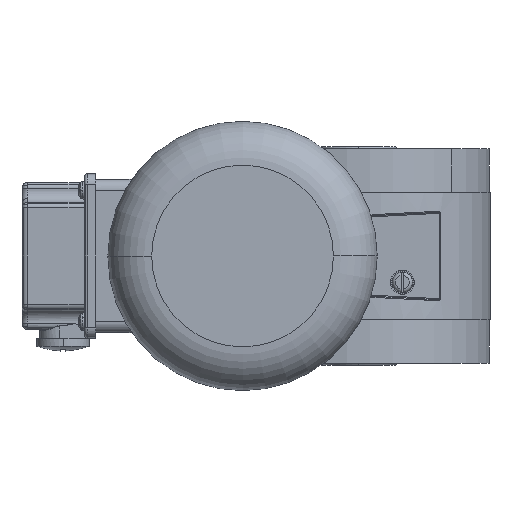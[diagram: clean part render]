
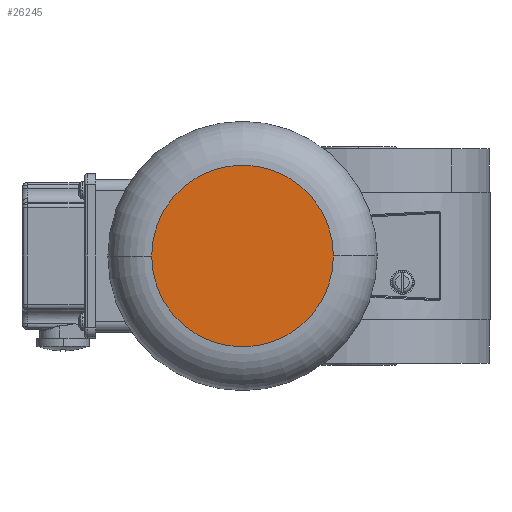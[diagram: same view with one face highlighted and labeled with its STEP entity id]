
A CAD part, left-side view. The second image highlights one B-rep face of the part: STEP entity #26245.
In plain terms, the highlighted planar face has unit normal (-1, 0, 0).
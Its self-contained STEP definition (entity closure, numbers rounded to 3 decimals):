
#167 = ORIENTED_EDGE ( 'NONE', *, *, #23098, .T. ) ;
#1545 = CARTESIAN_POINT ( 'NONE',  ( 0., 0., -41.5 ) ) ;
#3726 = EDGE_LOOP ( 'NONE', ( #167, #19884 ) ) ;
#4423 = DIRECTION ( 'NONE',  ( 0., 0., -1. ) ) ;
#4963 = CARTESIAN_POINT ( 'NONE',  ( 0., 0., 0. ) ) ;
#6099 = FACE_OUTER_BOUND ( 'NONE', #3726, .T. ) ;
#6343 = DIRECTION ( 'NONE',  ( 0., 0., -1. ) ) ;
#7079 = AXIS2_PLACEMENT_3D ( 'NONE', #4963, #16897, #10929 ) ;
#7354 = EDGE_CURVE ( 'NONE', #22039, #17450, #25780, .T. ) ;
#9706 = CIRCLE ( 'NONE', #19669, 41.5 ) ;
#10526 = DIRECTION ( 'NONE',  ( -1., 0., 0. ) ) ;
#10669 = PLANE ( 'NONE',  #7079 ) ;
#10929 = DIRECTION ( 'NONE',  ( 0., 0., -1. ) ) ;
#12020 = CARTESIAN_POINT ( 'NONE',  ( 0., 0., 0. ) ) ;
#16246 = AXIS2_PLACEMENT_3D ( 'NONE', #24895, #10526, #6343 ) ;
#16897 = DIRECTION ( 'NONE',  ( 1., 0., 0. ) ) ;
#17450 = VERTEX_POINT ( 'NONE', #1545 ) ;
#19669 = AXIS2_PLACEMENT_3D ( 'NONE', #12020, #20833, #4423 ) ;
#19884 = ORIENTED_EDGE ( 'NONE', *, *, #7354, .T. ) ;
#20833 = DIRECTION ( 'NONE',  ( -1., 0., 0. ) ) ;
#22039 = VERTEX_POINT ( 'NONE', #22983 ) ;
#22983 = CARTESIAN_POINT ( 'NONE',  ( 0., 0., 41.5 ) ) ;
#23098 = EDGE_CURVE ( 'NONE', #17450, #22039, #9706, .T. ) ;
#24895 = CARTESIAN_POINT ( 'NONE',  ( 0., 0., 0. ) ) ;
#25780 = CIRCLE ( 'NONE', #16246, 41.5 ) ;
#26245 = ADVANCED_FACE ( 'NONE', ( #6099 ), #10669, .F. ) ;
